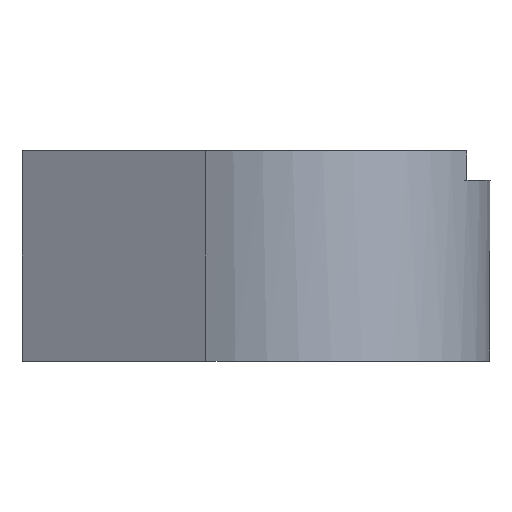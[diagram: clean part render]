
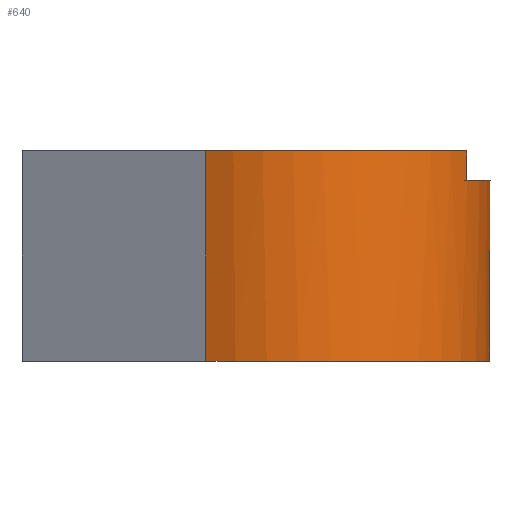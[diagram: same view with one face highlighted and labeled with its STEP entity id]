
A CAD part, left-side view. The second image highlights one B-rep face of the part: STEP entity #640.
In plain terms, the highlighted cylindrical face has radius 8.5 mm (diameter 17 mm), a partial arc.
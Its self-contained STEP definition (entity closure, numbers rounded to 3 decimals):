
#68=FACE_OUTER_BOUND('',#103,.T.);
#103=EDGE_LOOP('',(#541,#542,#543,#544,#545,#546));
#119=LINE('',#936,#176);
#158=LINE('',#1076,#215);
#163=LINE('',#1096,#220);
#176=VECTOR('',#744,10.);
#215=VECTOR('',#859,10.);
#220=VECTOR('',#884,10.);
#246=CIRCLE('',#685,8.5);
#248=CIRCLE('',#689,8.5);
#258=CIRCLE('',#717,8.5);
#266=VERTEX_POINT('',#932);
#268=VERTEX_POINT('',#935);
#287=VERTEX_POINT('',#983);
#289=VERTEX_POINT('',#996);
#313=VERTEX_POINT('',#1075);
#318=VERTEX_POINT('',#1095);
#329=EDGE_CURVE('',#268,#266,#119,.T.);
#355=EDGE_CURVE('',#287,#266,#246,.T.);
#358=EDGE_CURVE('',#268,#289,#248,.T.);
#393=EDGE_CURVE('',#313,#289,#158,.T.);
#402=EDGE_CURVE('',#318,#287,#163,.T.);
#403=EDGE_CURVE('',#318,#313,#258,.T.);
#541=ORIENTED_EDGE('',*,*,#329,.T.);
#542=ORIENTED_EDGE('',*,*,#355,.F.);
#543=ORIENTED_EDGE('',*,*,#402,.F.);
#544=ORIENTED_EDGE('',*,*,#403,.T.);
#545=ORIENTED_EDGE('',*,*,#393,.T.);
#546=ORIENTED_EDGE('',*,*,#358,.F.);
#614=CYLINDRICAL_SURFACE('',#716,8.5);
#640=ADVANCED_FACE('',(#68),#614,.T.);
#685=AXIS2_PLACEMENT_3D('',#985,#790,#791);
#689=AXIS2_PLACEMENT_3D('',#997,#798,#799);
#716=AXIS2_PLACEMENT_3D('',#1094,#882,#883);
#717=AXIS2_PLACEMENT_3D('',#1097,#885,#886);
#744=DIRECTION('',(0.,0.,1.));
#790=DIRECTION('center_axis',(0.,0.,
1.));
#791=DIRECTION('ref_axis',(-0.877,0.48,0.));
#798=DIRECTION('center_axis',(0.,0.,
1.));
#799=DIRECTION('ref_axis',(-0.877,0.48,0.));
#859=DIRECTION('',(0.,0.,1.));
#882=DIRECTION('center_axis',(0.,0.,1.));
#883=DIRECTION('ref_axis',(-0.877,0.48,0.));
#884=DIRECTION('',(0.,0.,1.));
#885=DIRECTION('center_axis',(0.,0.,
1.));
#886=DIRECTION('ref_axis',(-0.877,0.48,0.));
#932=CARTESIAN_POINT('',(-64.737,-85.899,170.4));
#935=CARTESIAN_POINT('',(-64.737,-85.899,169.1));
#936=CARTESIAN_POINT('',(-64.737,-85.899,170.4));
#983=CARTESIAN_POINT('',(-68.155,-74.337,170.4));
#985=CARTESIAN_POINT('Origin',(-60.7,-78.419,170.4));
#996=CARTESIAN_POINT('',(-56.96,-86.052,169.1));
#997=CARTESIAN_POINT('Origin',(-60.7,-78.419,169.1));
#1075=CARTESIAN_POINT('',(-56.96,-86.052,161.1));
#1076=CARTESIAN_POINT('',(-56.96,-86.052,161.1));
#1094=CARTESIAN_POINT('Origin',(-60.7,-78.419,161.1));
#1095=CARTESIAN_POINT('',(-68.155,-74.337,161.1));
#1096=CARTESIAN_POINT('',(-68.155,-74.337,161.1));
#1097=CARTESIAN_POINT('Origin',(-60.7,-78.419,161.1));
